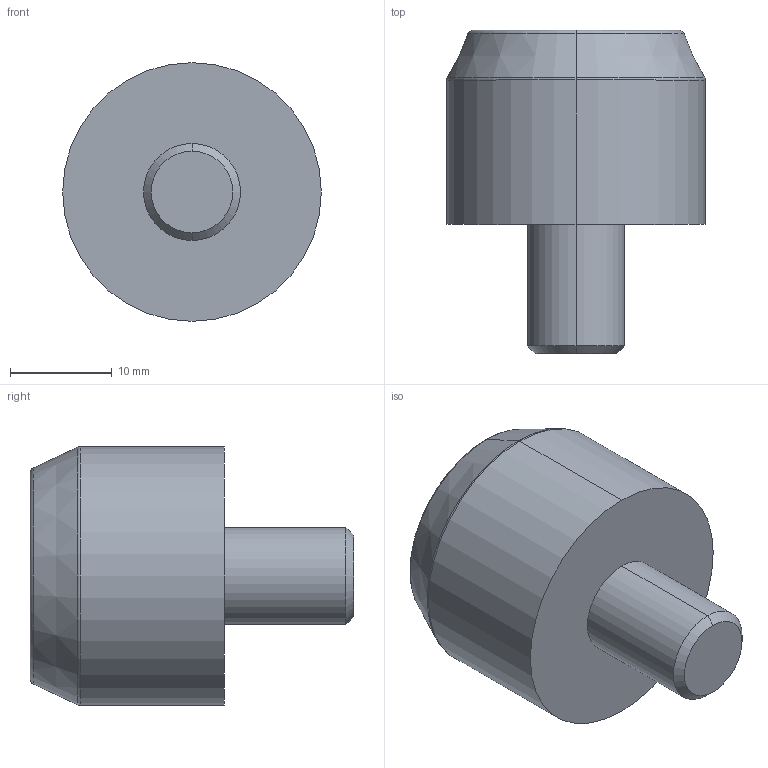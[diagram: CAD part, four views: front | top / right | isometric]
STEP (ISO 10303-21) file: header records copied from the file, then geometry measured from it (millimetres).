
FILE_DESCRIPTION (( 'STEP AP214' ), '1' );
FILE_NAME ('SE-1.00-.188-S-A.STEP', '2014-06-19T18:39:19', ( 'admin' ), ( '' ), 'SwSTEP 2.0', 'SolidWorks 2011', '' );
FILE_SCHEMA (( 'AUTOMOTIVE_DESIGN' ));
Length unit declared in the file: inch
Products named in the file (1): SE-1.00-.188-S-A
Bounding box: 25.4 x 31.75 x 25.4 mm (x, y, z)
Volume: 9765.8 mm3; surface area: 2862.4 mm2
Topology: 1 solids, 1 shells, 25 faces, 52 edges, 32 vertices
Faces by surface type: plane 11, cylinder 6, cone 4, torus 4
Entity records: 706 total; most frequent: DIRECTION 128, CARTESIAN_POINT 110, ORIENTED_EDGE 104, EDGE_CURVE 52, AXIS2_PLACEMENT_3D 50, VERTEX_POINT 32, LINE 28, VECTOR 28
